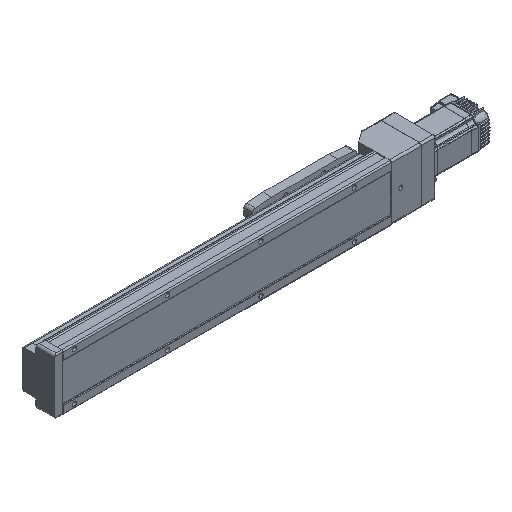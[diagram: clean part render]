
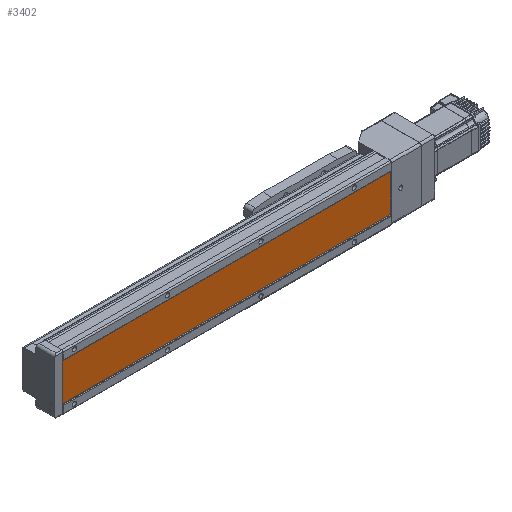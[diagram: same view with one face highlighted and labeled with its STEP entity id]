
A CAD part, isometric view. The second image highlights one B-rep face of the part: STEP entity #3402.
In plain terms, the highlighted planar face has unit normal (0, -1, 0).
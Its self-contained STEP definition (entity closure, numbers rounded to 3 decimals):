
#1168 = PLANE ( 'NONE',  #43993 ) ;
#3402 = ADVANCED_FACE ( 'NONE', ( #18306 ), #1168, .F. ) ;
#5118 = CARTESIAN_POINT ( 'NONE',  ( 29.843, 1., 0. ) ) ;
#6565 = CARTESIAN_POINT ( 'NONE',  ( -29.843, 1., 528. ) ) ;
#8176 = VERTEX_POINT ( 'NONE', #33590 ) ;
#9890 = CARTESIAN_POINT ( 'NONE',  ( -29.843, 1., 1378. ) ) ;
#10746 = LINE ( 'NONE', #27587, #48788 ) ;
#10869 = VECTOR ( 'NONE', #54962, 1000. ) ;
#13443 = ORIENTED_EDGE ( 'NONE', *, *, #17791, .F. ) ;
#14257 = DIRECTION ( 'NONE',  ( 0., 0., -1. ) ) ;
#16371 = EDGE_CURVE ( 'NONE', #8176, #27007, #49255, .T. ) ;
#17052 = EDGE_CURVE ( 'NONE', #44633, #27007, #28248, .T. ) ;
#17791 = EDGE_CURVE ( 'NONE', #50152, #8176, #55245, .T. ) ;
#18306 = FACE_OUTER_BOUND ( 'NONE', #52894, .T. ) ;
#20038 = VECTOR ( 'NONE', #37269, 1000. ) ;
#22944 = ORIENTED_EDGE ( 'NONE', *, *, #16371, .F. ) ;
#23135 = CARTESIAN_POINT ( 'NONE',  ( 29.843, 1., 1378. ) ) ;
#27007 = VERTEX_POINT ( 'NONE', #5118 ) ;
#27587 = CARTESIAN_POINT ( 'NONE',  ( -29.843, 1., 1378. ) ) ;
#28248 = LINE ( 'NONE', #45934, #20038 ) ;
#31632 = DIRECTION ( 'NONE',  ( 0., 0., 1. ) ) ;
#33590 = CARTESIAN_POINT ( 'NONE',  ( 29.843, 1., 528. ) ) ;
#36018 = DIRECTION ( 'NONE',  ( 0., 1., 0. ) ) ;
#36222 = VECTOR ( 'NONE', #44638, 1000. ) ;
#36928 = CARTESIAN_POINT ( 'NONE',  ( -29.843, 1., 0. ) ) ;
#37269 = DIRECTION ( 'NONE',  ( 1., 0., 0. ) ) ;
#42340 = CARTESIAN_POINT ( 'NONE',  ( -29.843, 1., 528. ) ) ;
#43993 = AXIS2_PLACEMENT_3D ( 'NONE', #9890, #36018, #31632 ) ;
#44633 = VERTEX_POINT ( 'NONE', #36928 ) ;
#44638 = DIRECTION ( 'NONE',  ( 0., 0., -1. ) ) ;
#45934 = CARTESIAN_POINT ( 'NONE',  ( -29.843, 1., 0. ) ) ;
#48788 = VECTOR ( 'NONE', #14257, 1000. ) ;
#49255 = LINE ( 'NONE', #23135, #36222 ) ;
#49304 = ORIENTED_EDGE ( 'NONE', *, *, #17052, .T. ) ;
#50152 = VERTEX_POINT ( 'NONE', #42340 ) ;
#51217 = EDGE_CURVE ( 'NONE', #50152, #44633, #10746, .T. ) ;
#52515 = ORIENTED_EDGE ( 'NONE', *, *, #51217, .T. ) ;
#52894 = EDGE_LOOP ( 'NONE', ( #13443, #52515, #49304, #22944 ) ) ;
#54962 = DIRECTION ( 'NONE',  ( 1., 0., 0. ) ) ;
#55245 = LINE ( 'NONE', #6565, #10869 ) ;
